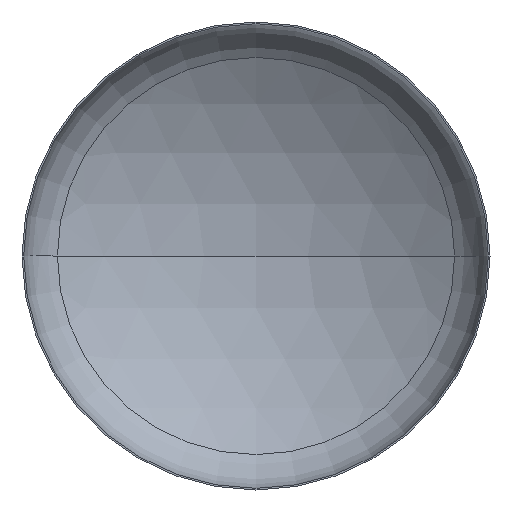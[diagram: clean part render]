
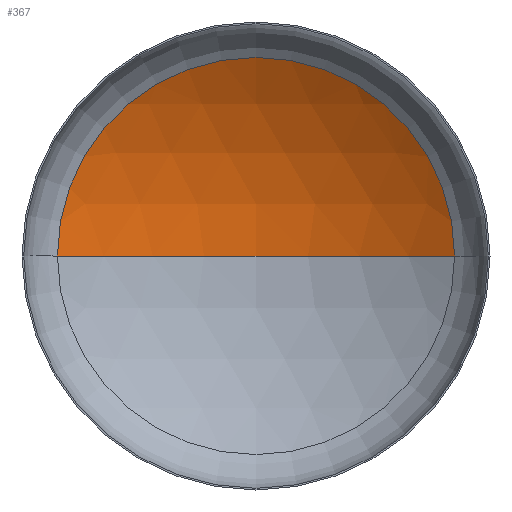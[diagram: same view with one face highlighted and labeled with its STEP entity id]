
A CAD part, front view. The second image highlights one B-rep face of the part: STEP entity #367.
In plain terms, the highlighted spherical face has radius 1120 mm.
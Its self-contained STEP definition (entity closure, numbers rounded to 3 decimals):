
#4 = VERTEX_POINT ( 'NONE', #255 ) ;
#6 = AXIS2_PLACEMENT_3D ( 'NONE', #143, #118, #166 ) ;
#8 = VERTEX_POINT ( 'NONE', #254 ) ;
#13 = CARTESIAN_POINT ( 'NONE',  ( 0., -747.219, 0. ) ) ;
#25 = EDGE_LOOP ( 'NONE', ( #131, #123, #83 ) ) ;
#29 = AXIS2_PLACEMENT_3D ( 'NONE', #13, #247, #364 ) ;
#33 = AXIS2_PLACEMENT_3D ( 'NONE', #401, #191, #383 ) ;
#41 = VERTEX_POINT ( 'NONE', #285 ) ;
#83 = ORIENTED_EDGE ( 'NONE', *, *, #346, .T. ) ;
#118 = DIRECTION ( 'NONE',  ( 0., 0., -1. ) ) ;
#123 = ORIENTED_EDGE ( 'NONE', *, *, #349, .T. ) ;
#131 = ORIENTED_EDGE ( 'NONE', *, *, #387, .F. ) ;
#143 = CARTESIAN_POINT ( 'NONE',  ( 0., -747.219, 0. ) ) ;
#152 = AXIS2_PLACEMENT_3D ( 'NONE', #207, #234, #241 ) ;
#166 = DIRECTION ( 'NONE',  ( -1., 0., 0. ) ) ;
#191 = DIRECTION ( 'NONE',  ( 0., -1., 0. ) ) ;
#207 = CARTESIAN_POINT ( 'NONE',  ( 0., -747.219, 0. ) ) ;
#209 = SPHERICAL_SURFACE ( 'NONE', #6, 1120. ) ;
#218 = CIRCLE ( 'NONE', #33, 594.033 ) ;
#234 = DIRECTION ( 'NONE',  ( 0., 0., 1. ) ) ;
#241 = DIRECTION ( 'NONE',  ( 1., 0., 0. ) ) ;
#247 = DIRECTION ( 'NONE',  ( 0., 0., -1. ) ) ;
#254 = CARTESIAN_POINT ( 'NONE',  ( 0., 372.781, 0. ) ) ;
#255 = CARTESIAN_POINT ( 'NONE',  ( -594.033, 202.267, 0. ) ) ;
#267 = CIRCLE ( 'NONE', #152, 1120. ) ;
#285 = CARTESIAN_POINT ( 'NONE',  ( 594.033, 202.267, 0. ) ) ;
#336 = FACE_OUTER_BOUND ( 'NONE', #25, .T. ) ;
#346 = EDGE_CURVE ( 'NONE', #41, #4, #218, .T. ) ;
#349 = EDGE_CURVE ( 'NONE', #8, #41, #400, .T. ) ;
#364 = DIRECTION ( 'NONE',  ( -1., 0., 0. ) ) ;
#367 = ADVANCED_FACE ( 'NONE', ( #336 ), #209, .F. ) ;
#383 = DIRECTION ( 'NONE',  ( 1., 0., 0. ) ) ;
#387 = EDGE_CURVE ( 'NONE', #8, #4, #267, .T. ) ;
#400 = CIRCLE ( 'NONE', #29, 1120. ) ;
#401 = CARTESIAN_POINT ( 'NONE',  ( 0., 202.267, 0. ) ) ;
